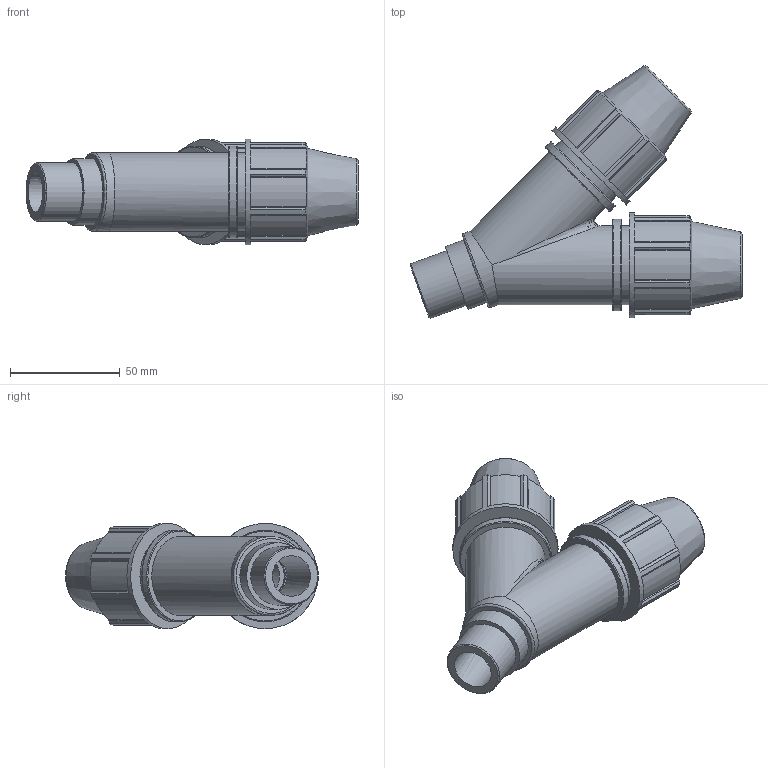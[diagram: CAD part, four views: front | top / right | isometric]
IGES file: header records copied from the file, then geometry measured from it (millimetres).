
Global section: file name: 075500020007_185500020007_0755060200070A.ipt; native system: Autodesk Inventor 2015; preprocessor: unknown; author: KIM; date: 20170618.093414; units: millimetre
Bounding box: 151.32 x 115.18 x 48 mm (x, y, z)
Volume: 202249.4 mm3; surface area: 48749.1 mm2
Topology: 1 solids, 1 shells, 160 faces, 419 edges, 274 vertices
Faces by surface type: plane 101, cylinder 29, revolution 24, cone 5, bspline 1
Full cylindrical faces by diameter (mm): 26.441 x1, 30.407 x1, 36 x5, 41.76 x2, 48 x2
